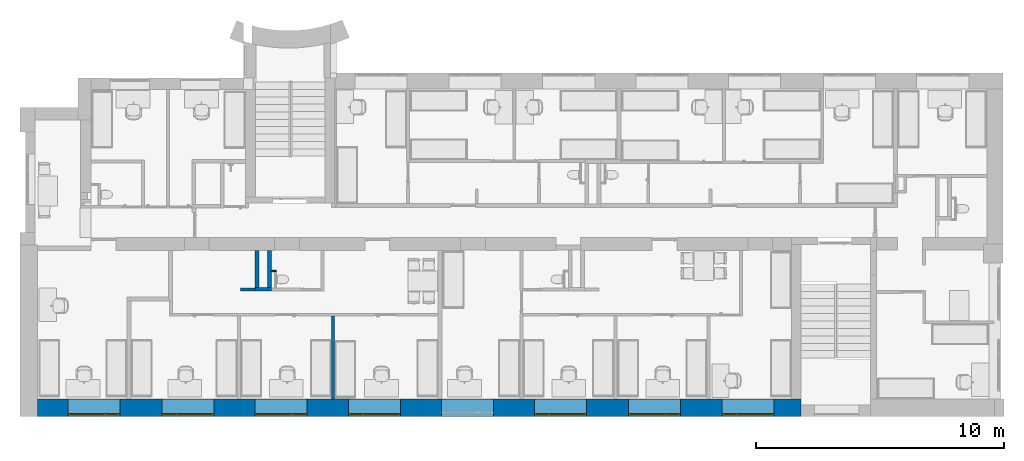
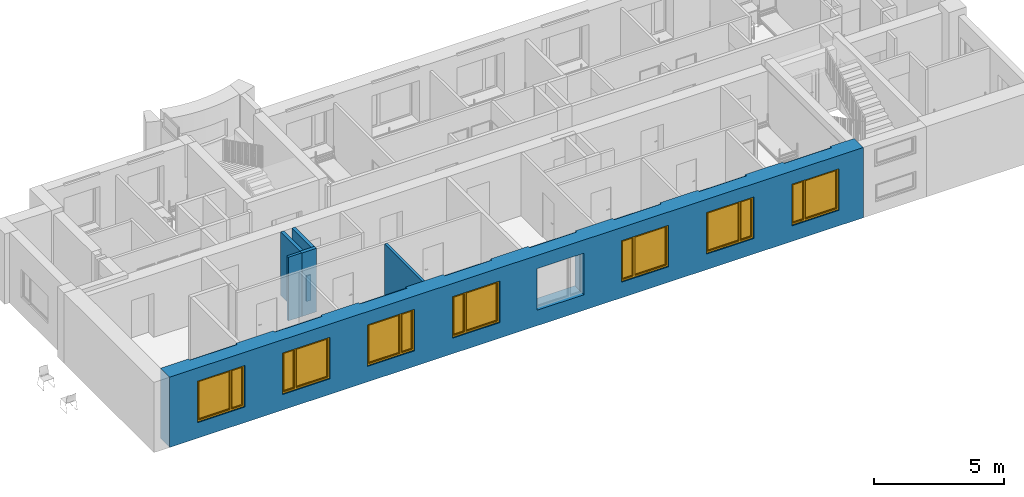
# One storey, part 3 of 48: 7 walls, 7 windows, 11 openings.
"""IFC2X3 building model written with IfcOpenShell, lengths in millimetres."""

import ifcopenshell
import ifcopenshell.guid

model = None  # the IFC model being written
_history = None  # IfcOwnerHistory: only IFC2X3 demands one
_inside = {}  # id of a spatial element -> (the spatial element, [elements in it])
_under = {}  # id of a project, library or spatial element -> (it, [spatial elements below it])
_declared = {}  # id of a project -> (the project, [libraries it declares])
_typed = {}  # id of a type object -> (the type object, [elements of that type])
_made_of = {}  # id of a material, layer set ... -> (it, [elements and type objects made of it])


def new_model(schema):
    """Start an empty IFC model of exactly this schema.

    Asked for "IFC4X3", IfcOpenShell would pick the latest addendum, in which some entities
    have other attributes; the version numbers below select the first issue.
    IFC2X3 requires an IfcOwnerHistory on every rooted entity: one is made here for all.
    """
    global model, _history
    if schema == "IFC4X3":
        model = ifcopenshell.file(schema_version=(4, 3, 0, 0))
    else:
        model = ifcopenshell.file(schema=schema)
    _inside.clear()
    _under.clear()
    _declared.clear()
    _typed.clear()
    _made_of.clear()
    _history = None
    if model.schema == "IFC2X3":
        org = make("IfcOrganization", Name="unknown")
        user = make(
            "IfcPersonAndOrganization",
            ThePerson=make("IfcPerson", FamilyName="unknown"),
            TheOrganization=org,
        )
        app = make(
            "IfcApplication",
            ApplicationDeveloper=org,
            Version="unknown",
            ApplicationFullName="unknown",
            ApplicationIdentifier="unknown",
        )
        _history = make(
            "IfcOwnerHistory",
            OwningUser=user,
            OwningApplication=app,
            ChangeAction="ADDED",
            CreationDate=0,
        )
    return model


def make(cls, **values):
    """One entity of the class cls with the attributes given. An attribute that is None is left unset."""
    return model.create_entity(
        cls, **{name: value for name, value in values.items() if value is not None}
    )


def entity(cls, *values):
    """Any entity or typed value of the class cls, its attributes in the order of the schema. None: left unset."""
    e = model.create_entity(cls)
    for i, value in enumerate(values):
        if value is not None:
            e[i] = value
    return e


def rooted(cls, **values):
    """An entity with a GlobalId (a new one), such as an element, a storey or a relation."""
    return make(cls, GlobalId=ifcopenshell.guid.new(), OwnerHistory=_history, **values)


def si_unit(unit_type, name, prefix=None):
    """IfcSIUnit, for example si_unit("LENGTHUNIT", "METRE", prefix="MILLI")."""
    return make("IfcSIUnit", UnitType=unit_type, Prefix=prefix, Name=name)


def converted_unit(unit_type, name, factor, base, dimensions=None, offset=None):
    """IfcConversionBasedUnit, such as the inch: factor (a typed value) times the base unit."""
    return make(
        "IfcConversionBasedUnit"
        if offset is None
        else "IfcConversionBasedUnitWithOffset",
        ConversionOffset=offset,
        Dimensions=None
        if dimensions is None
        else entity("IfcDimensionalExponents", *dimensions),
        UnitType=unit_type,
        Name=name,
        ConversionFactor=make(
            "IfcMeasureWithUnit", ValueComponent=factor, UnitComponent=base
        ),
    )


def derived_unit(unit_type, elements):
    """IfcDerivedUnit: a product of units, each with its exponent."""
    return make(
        "IfcDerivedUnit",
        Elements=[
            make("IfcDerivedUnitElement", Unit=unit, Exponent=power)
            for unit, power in elements
        ],
        UnitType=unit_type,
    )


def assignment(units):
    """IfcUnitAssignment: the units of a project."""
    return None if units is None else make("IfcUnitAssignment", Units=units)


def point(xyz):
    """IfcCartesianPoint."""
    return None if xyz is None else make("IfcCartesianPoint", Coordinates=xyz)


def direction(xyz):
    """IfcDirection."""
    return None if xyz is None else make("IfcDirection", DirectionRatios=xyz)


def frame(location, z_axis=None, x_axis=None):
    """IfcAxis2Placement3D, a coordinate frame: its origin and axes. An axis left out is left unset."""
    return make(
        "IfcAxis2Placement3D",
        Location=point(location),
        Axis=direction(z_axis),
        RefDirection=direction(x_axis),
    )


def frame_2d(location, x_axis=None):
    """IfcAxis2Placement2D, a coordinate frame in the plane: its origin and x axis."""
    return make(
        "IfcAxis2Placement2D", Location=point(location), RefDirection=direction(x_axis)
    )


def origin():
    """The frame at (0, 0, 0) with its axes left unset."""
    return frame((0.0, 0.0, 0.0))


def place(relative_to, where):
    """IfcLocalPlacement: puts the frame where relative to a parent placement (None: the world)."""
    return make(
        "IfcLocalPlacement", PlacementRelTo=relative_to, RelativePlacement=where
    )


def context(
    kind, dimensions, precision=None, world=None, true_north=None, identifier=None
):
    """IfcGeometricRepresentationContext, for example the 3D "Model" context."""
    return make(
        "IfcGeometricRepresentationContext",
        ContextIdentifier=identifier,
        ContextType=kind,
        CoordinateSpaceDimension=dimensions,
        Precision=precision,
        WorldCoordinateSystem=world,
        TrueNorth=true_north,
    )


def subcontext(parent, identifier, kind, view, scale=None):
    """IfcGeometricRepresentationSubContext, for example "Body" below "Model"."""
    return make(
        "IfcGeometricRepresentationSubContext",
        ContextIdentifier=identifier,
        ContextType=kind,
        ParentContext=parent,
        TargetScale=scale,
        TargetView=view,
    )


def project(units=None, contexts=None):
    """IfcProject with its units and contexts."""
    return rooted(
        "IfcProject",
        Name="project",
        RepresentationContexts=contexts,
        UnitsInContext=assignment(units),
    )


def spatial(cls, under=None, at=None, **own):
    """A site, building, storey or space (cls), placed at a placement, below another one or the project."""
    s = rooted(cls, ObjectPlacement=at, **own)
    if under is not None:
        _under.setdefault(under.id(), (under, []))[1].append(s)
    return s


def profile(cls, at=None, kind="AREA", **sizes):
    """A parametric profile (cls). Its sizes go by their IFC names, for example OverallWidth=200.0."""
    return make(cls, ProfileType=kind, Position=at, **sizes)


def rectangle(**sizes):
    """IfcRectangleProfileDef."""
    return profile("IfcRectangleProfileDef", **sizes)


def extrude(swept, where, along, depth):
    """IfcExtrudedAreaSolid: the profile swept, set in the frame where, extruded along a direction by depth."""
    return make(
        "IfcExtrudedAreaSolid",
        SweptArea=swept,
        Position=where,
        ExtrudedDirection=direction(along),
        Depth=depth,
    )


def faces_of(points, faces, orient=None, outer=None):
    """IfcFace entities. A face is a list of loops; a loop is a list of indices into points, from 0.

    orient and outer hold one flag for each loop. By default every Orientation is true, the
    first loop of a face is its IfcFaceOuterBound and the others are IfcFaceBound.
    """
    made = []
    for i, loops in enumerate(faces):
        bounds = []
        for j, loop in enumerate(loops):
            is_outer = j == 0 if outer is None else outer[i][j]
            bounds.append(
                make(
                    "IfcFaceOuterBound" if is_outer else "IfcFaceBound",
                    Bound=make("IfcPolyLoop", Polygon=[points[k] for k in loop]),
                    Orientation=True if orient is None else orient[i][j],
                )
            )
        made.append(make("IfcFace", Bounds=bounds))
    return made


def faceted_brep(points, faces, orient=None, outer=None, voids=None):
    """IfcFacetedBrep: a solid bounded by flat faces; with voids (closed shells), ...WithVoids."""
    shared = [point(p) for p in points]
    hull = make("IfcClosedShell", CfsFaces=faces_of(shared, faces, orient, outer))
    if voids is None:
        return make("IfcFacetedBrep", Outer=hull)
    return make(
        "IfcFacetedBrepWithVoids",
        Outer=hull,
        Voids=[
            make(cls, CfsFaces=faces_of(shared, fs, o, b)) for cls, fs, o, b in voids
        ],
    )


def shape(context_of_items, identifier, shape_type, items):
    """IfcShapeRepresentation: the items that make up one representation, for example the "Body"."""
    return make(
        "IfcShapeRepresentation",
        ContextOfItems=context_of_items,
        RepresentationIdentifier=identifier,
        RepresentationType=shape_type,
        Items=items,
    )


def source(mapping_origin, context_of_items, identifier, shape_type, items):
    """IfcRepresentationMap: a shape defined once, which mapped items show again and again."""
    return make(
        "IfcRepresentationMap",
        MappingOrigin=mapping_origin,
        MappedRepresentation=shape(context_of_items, identifier, shape_type, items),
    )


def transform(
    local_origin,
    x_axis=None,
    y_axis=None,
    z_axis=None,
    scale=None,
    scale2=None,
    scale3=None,
    uniform=True,
):
    """IfcCartesianTransformationOperator3D, or its non-uniform kind. x_axis, y_axis, z_axis: its Axis1, 2, 3."""
    if uniform:
        return make(
            "IfcCartesianTransformationOperator3D",
            Axis1=direction(x_axis),
            Axis2=direction(y_axis),
            LocalOrigin=point(local_origin),
            Scale=scale,
            Axis3=direction(z_axis),
        )
    return make(
        "IfcCartesianTransformationOperator3DnonUniform",
        Axis1=direction(x_axis),
        Axis2=direction(y_axis),
        LocalOrigin=point(local_origin),
        Scale=scale,
        Axis3=direction(z_axis),
        Scale2=scale2,
        Scale3=scale3,
    )


def mapped(mapping_source, mapping_target):
    """IfcMappedItem: shows the shape of a source again, moved by a transform."""
    return make(
        "IfcMappedItem", MappingSource=mapping_source, MappingTarget=mapping_target
    )


def material(Name=None, Category=None):
    """IfcMaterial."""
    return make("IfcMaterial", Name=Name, Category=Category)


def material_list(materials):
    """IfcMaterialList."""
    return make("IfcMaterialList", Materials=materials)


def layer(
    of_material, thickness, ventilated=None, Name=None, Category=None, Priority=None
):
    """IfcMaterialLayer: one layer of a wall or slab, of a material (None: an air gap)."""
    return make(
        "IfcMaterialLayer",
        Material=of_material,
        LayerThickness=thickness,
        IsVentilated=ventilated,
        Name=Name,
        Category=Category,
        Priority=Priority,
    )


def layer_set(layers, Name=None):
    """IfcMaterialLayerSet."""
    return make("IfcMaterialLayerSet", MaterialLayers=layers, LayerSetName=Name)


def layer_usage(for_layer_set, set_direction, sense, offset, extent=None):
    """IfcMaterialLayerSetUsage: how a layer set lies in its element."""
    return make(
        "IfcMaterialLayerSetUsage",
        ForLayerSet=for_layer_set,
        LayerSetDirection=set_direction,
        DirectionSense=sense,
        OffsetFromReferenceLine=offset,
        ReferenceExtent=extent,
    )


def made_of(thing, what):
    """Note that an element or type object is made of a material, layer set ...; save() writes the relation."""
    if what is not None:
        _made_of.setdefault(what.id(), (what, []))[1].append(thing)
    return thing


def type_object(cls, material=None, **own):
    """A type object (cls), such as IfcWallType, which elements share."""
    return made_of(rooted(cls, **own), material)


def type_shapes(of_type, sources):
    """Give a type object the sources (RepresentationMaps) that its elements show as mapped items."""
    of_type.RepresentationMaps = sources


def element(
    cls,
    number,
    at=None,
    inside=None,
    cuts=None,
    type_object=None,
    material=None,
    context=None,
    identifier="Body",
    shape_type=None,
    held_by="IfcProductDefinitionShape",
    body=None,
    shapes=None,
    **own,
):
    """One element of the class cls, such as IfcWall. Its Tag is "e" and its number.

    at: its placement. inside: the storey or other place that contains it. cuts: it is an
    opening in that element (IfcRelVoidsElement). A single representation is given by context,
    identifier, shape_type and body (its items); several are given by shapes. held_by: the class
    of the entity that holds the representations. save() writes the other relations.
    """
    e = rooted(cls, Tag="e%d" % number, ObjectPlacement=at, **own)
    if body is not None:
        shapes = [shape(context, identifier, shape_type, body)]
    if shapes is not None:
        e.Representation = make(held_by, Representations=shapes)
    if inside is not None:
        _inside.setdefault(inside.id(), (inside, []))[1].append(e)
    if cuts is not None:
        rooted(
            "IfcRelVoidsElement", RelatingBuildingElement=cuts, RelatedOpeningElement=e
        )
    if type_object is not None:
        _typed.setdefault(type_object.id(), (type_object, []))[1].append(e)
    return made_of(e, material)


def fill(opening, filler):
    """IfcRelFillsElement: the door or window that sits in an opening."""
    return rooted(
        "IfcRelFillsElement",
        RelatingOpeningElement=opening,
        RelatedBuildingElement=filler,
    )


def aggregate(whole, parts):
    """IfcRelAggregates: a whole, such as a stair, and the parts it consists of."""
    return rooted("IfcRelAggregates", RelatingObject=whole, RelatedObjects=parts)


def save(model, path):
    """Write the relations noted so far, then the file.

    IfcRelAggregates (storeys below a building ...), IfcRelContainedInSpatialStructure (elements
    in a storey), IfcRelDefinesByType, IfcRelAssociatesMaterial and IfcRelDeclares: one each for
    every whole, place, type object, material and project.
    """
    for whole, parts in _under.values():
        aggregate(whole, parts)
    for where, things in _inside.values():
        rooted(
            "IfcRelContainedInSpatialStructure",
            RelatedElements=things,
            RelatingStructure=where,
        )
    for kind, things in _typed.values():
        rooted("IfcRelDefinesByType", RelatedObjects=things, RelatingType=kind)
    for what, things in _made_of.values():
        rooted("IfcRelAssociatesMaterial", RelatedObjects=things, RelatingMaterial=what)
    for by, libraries in _declared.values():
        rooted("IfcRelDeclares", RelatingContext=by, RelatedDefinitions=libraries)
    model.write(path)


model = new_model("IFC2X3")

# Units and contexts
model_context = context("Model", 3, precision=0.01, world=origin(), true_north=direction((6.12303176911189e-17, 1.0)))
body_context = subcontext(model_context, "Body", "Model", "MODEL_VIEW")
ifc_project = project(units=[si_unit("LENGTHUNIT", "METRE", prefix="MILLI"), si_unit("AREAUNIT", "SQUARE_METRE"), si_unit("VOLUMEUNIT", "CUBIC_METRE"), converted_unit("PLANEANGLEUNIT", "DEGREE", entity("IfcRatioMeasure", 0.0174532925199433), si_unit("PLANEANGLEUNIT", "RADIAN"), dimensions=[0, 0, 0, 0, 0, 0, 0]), si_unit("MASSUNIT", "GRAM", prefix="KILO"), derived_unit("MASSDENSITYUNIT", [(si_unit("MASSUNIT", "GRAM", prefix="KILO"), 1), (si_unit("LENGTHUNIT", "METRE"), -3)]), si_unit("TIMEUNIT", "SECOND"), si_unit("FREQUENCYUNIT", "HERTZ"), si_unit("THERMODYNAMICTEMPERATUREUNIT", "DEGREE_CELSIUS"), derived_unit("THERMALTRANSMITTANCEUNIT", [(si_unit("MASSUNIT", "GRAM", prefix="KILO"), 1), (si_unit("THERMODYNAMICTEMPERATUREUNIT", "KELVIN"), -1), (si_unit("TIMEUNIT", "SECOND"), -3)]), derived_unit("VOLUMETRICFLOWRATEUNIT", [(si_unit("LENGTHUNIT", "METRE"), 3), (si_unit("TIMEUNIT", "SECOND"), -1)]), si_unit("ELECTRICCURRENTUNIT", "AMPERE"), si_unit("ELECTRICVOLTAGEUNIT", "VOLT"), si_unit("POWERUNIT", "WATT"), si_unit("FORCEUNIT", "NEWTON", prefix="KILO"), si_unit("ILLUMINANCEUNIT", "LUX"), si_unit("LUMINOUSFLUXUNIT", "LUMEN"), si_unit("LUMINOUSINTENSITYUNIT", "CANDELA"), derived_unit("USERDEFINED", [(si_unit("MASSUNIT", "GRAM", prefix="KILO"), -1), (si_unit("LENGTHUNIT", "METRE"), -2), (si_unit("TIMEUNIT", "SECOND"), 3), (si_unit("LUMINOUSFLUXUNIT", "LUMEN"), 1)]), derived_unit("LINEARVELOCITYUNIT", [(si_unit("LENGTHUNIT", "METRE"), 1), (si_unit("TIMEUNIT", "SECOND"), -1)]), si_unit("PRESSUREUNIT", "PASCAL"), derived_unit("USERDEFINED", [(si_unit("LENGTHUNIT", "METRE"), -2), (si_unit("MASSUNIT", "GRAM", prefix="KILO"), 1), (si_unit("TIMEUNIT", "SECOND"), -2)]), derived_unit("LINEARFORCEUNIT", [(si_unit("MASSUNIT", "GRAM", prefix="KILO"), 1), (si_unit("LENGTHUNIT", "METRE"), 1), (si_unit("TIMEUNIT", "SECOND"), -2), (si_unit("LENGTHUNIT", "METRE"), -1)]), derived_unit("PLANARFORCEUNIT", [(si_unit("MASSUNIT", "GRAM", prefix="KILO"), 1), (si_unit("LENGTHUNIT", "METRE"), 1), (si_unit("TIMEUNIT", "SECOND"), -2), (si_unit("LENGTHUNIT", "METRE"), -2)])], contexts=[model_context])

# Site, building, storey
site_placement = place(None, origin())
site = spatial("IfcSite", under=ifc_project, at=site_placement, Name="Default", CompositionType="ELEMENT")
building_placement = place(site_placement, origin())
building = spatial("IfcBuilding", under=site, at=building_placement, Name="SMA ARH", CompositionType="ELEMENT")
storey_placement = place(building_placement, frame((0.0, 0.0, 3300.0)))
storey = spatial("IfcBuildingStorey", under=building, at=storey_placement, Name="2 Korrus", CompositionType="ELEMENT", Elevation=3299.99999999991)

# Wall, openings, windows
ifc_material_1 = material(Name="_ol.olev sein")
ifc_layer_1 = layer(ifc_material_1, 700.0)
ifc_layer_set_1 = layer_set([ifc_layer_1], Name="Basic Wall:Generic - 700mm")
ifc_layer_usage_1 = layer_usage(ifc_layer_set_1, "AXIS2", "POSITIVE", -350.0)
wall_type_1 = type_object("IfcWallType", Name="Basic Wall:Generic - 700mm", PredefinedType="STANDARD", material=ifc_layer_set_1)
wall_1_placement = place(storey_placement, frame((0.0, -350.0, 0.0)))
wall_1 = element("IfcWallStandardCase", 1, at=wall_1_placement, inside=storey, type_object=wall_type_1, material=ifc_layer_usage_1, Name="Basic Wall:Generic - 700mm", ObjectType="Basic Wall:Generic - 700mm", context=body_context, shape_type="SweptSolid", body=[
    extrude(rectangle(XDim=30810.698001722, YDim=700.0, at=frame_2d((15405.349000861, -5.6843418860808e-14), x_axis=(-1.0, 0.0))), origin(), (0.0, 0.0, 1.0), 3299.99999999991),
])
opening_1_placement = place(wall_1_placement, origin())
element("IfcOpeningElement", 2, at=opening_1_placement, cuts=wall_1, Name="Basic Wall:Generic - 700mm", ObjectType="Recess", context=body_context, shape_type="SweptSolid", body=[
    extrude(rectangle(XDim=761.05, YDim=2098.41008000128, at=frame_2d((2.1600499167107e-12, 0.0), x_axis=(0.0, 1.0))), frame((28680.7949599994, 250.0, 319.475000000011), z_axis=(0.0, 1.0, 0.0), x_axis=(1.0, 0.0, 0.0)), (0.0, 0.0, 1.0), 100.0),
    extrude(rectangle(XDim=761.05, YDim=2098.41008000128, at=frame_2d((-2.1600499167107e-12, 0.0), x_axis=(0.0, 1.0))), frame((24895.7949599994, 250.0, 319.475000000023), z_axis=(0.0, 1.0, 0.0), x_axis=(1.0, 0.0, 0.0)), (0.0, 0.0, 1.0), 100.0),
    extrude(rectangle(XDim=761.05, YDim=2098.41008000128, at=frame_2d((-2.1600499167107e-12, 0.0), x_axis=(0.0, 1.0))), frame((21110.7949599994, 250.0, 319.475000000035), z_axis=(0.0, 1.0, 0.0), x_axis=(1.0, 0.0, 0.0)), (0.0, 0.0, 1.0), 100.0),
    extrude(rectangle(XDim=761.05, YDim=2098.41008000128, at=frame_2d((-2.1600499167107e-12, 0.0), x_axis=(0.0, 1.0))), frame((17355.7949599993, 250.0, 319.475000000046), z_axis=(0.0, 1.0, 0.0), x_axis=(1.0, 0.0, 0.0)), (0.0, 0.0, 1.0), 100.0),
    extrude(rectangle(XDim=761.05, YDim=2098.41008000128, at=frame_2d((2.1600499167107e-12, 0.0), x_axis=(0.0, 1.0))), frame((13610.7949599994, 250.0, 319.475000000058), z_axis=(0.0, 1.0, 0.0), x_axis=(1.0, 0.0, 0.0)), (0.0, 0.0, 1.0), 100.0),
    extrude(rectangle(XDim=761.05, YDim=2098.41008000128, at=frame_2d((0.0, 0.0), x_axis=(0.0, 1.0))), frame((9830.79495999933, 250.0, 319.47500000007), z_axis=(0.0, 1.0, 0.0), x_axis=(1.0, 0.0, 0.0)), (0.0, 0.0, 1.0), 100.0),
    extrude(rectangle(XDim=761.05, YDim=2098.41008000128, at=frame_2d((0.0, 0.0), x_axis=(0.0, 1.0))), frame((6070.79495999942, 250.0, 319.475000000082), z_axis=(0.0, 1.0, 0.0), x_axis=(1.0, 0.0, 0.0)), (0.0, 0.0, 1.0), 100.0),
    extrude(rectangle(XDim=761.05, YDim=2098.41008000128, at=frame_2d((1.13686837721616e-13, 0.0), x_axis=(0.0, 1.0))), frame((2290.79495999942, 250.0, 319.475000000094), z_axis=(0.0, 1.0, 0.0), x_axis=(1.0, 0.0, 0.0)), (0.0, 0.0, 1.0), 100.0),
    extrude(rectangle(XDim=761.05, YDim=2098.41008000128, at=frame_2d((-2.1600499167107e-12, 0.0), x_axis=(0.0, 1.0))), frame((28680.7949599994, 250.0, 3619.47500000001), z_axis=(0.0, 1.0, 0.0), x_axis=(1.0, 0.0, 0.0)), (0.0, 0.0, 1.0), 100.0),
    extrude(rectangle(XDim=761.05, YDim=2098.41008000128, at=frame_2d((2.1600499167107e-12, 0.0), x_axis=(0.0, 1.0))), frame((24915.7949599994, 250.0, 3619.47500000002), z_axis=(0.0, 1.0, 0.0), x_axis=(1.0, 0.0, 0.0)), (0.0, 0.0, 1.0), 100.0),
    extrude(rectangle(XDim=761.05, YDim=2098.41008000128, at=frame_2d((-2.1600499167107e-12, 0.0), x_axis=(0.0, 1.0))), frame((21130.7949599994, 250.0, 3619.47500000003), z_axis=(0.0, 1.0, 0.0), x_axis=(1.0, 0.0, 0.0)), (0.0, 0.0, 1.0), 100.0),
    extrude(rectangle(XDim=761.05, YDim=2098.41008000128, at=frame_2d((0.0, 0.0), x_axis=(0.0, 1.0))), frame((17370.7949599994, 250.0, 3619.47500000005), z_axis=(0.0, 1.0, 0.0), x_axis=(1.0, 0.0, 0.0)), (0.0, 0.0, 1.0), 100.0),
    extrude(rectangle(XDim=761.05, YDim=2098.41008000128, at=frame_2d((-2.1600499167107e-12, 0.0), x_axis=(0.0, 1.0))), frame((13610.7949599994, 250.0, 3619.47500000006), z_axis=(0.0, 1.0, 0.0), x_axis=(1.0, 0.0, 0.0)), (0.0, 0.0, 1.0), 100.0),
    extrude(rectangle(XDim=761.05, YDim=2098.41008000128, at=frame_2d((0.0, 0.0), x_axis=(0.0, 1.0))), frame((9830.79495999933, 250.0, 3619.47500000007), z_axis=(0.0, 1.0, 0.0), x_axis=(1.0, 0.0, 0.0)), (0.0, 0.0, 1.0), 100.0),
    extrude(rectangle(XDim=761.05, YDim=2098.41008000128, at=frame_2d((0.0, 0.0), x_axis=(0.0, 1.0))), frame((6070.79495999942, 250.0, 3619.47500000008), z_axis=(0.0, 1.0, 0.0), x_axis=(1.0, 0.0, 0.0)), (0.0, 0.0, 1.0), 100.0),
    extrude(rectangle(XDim=761.05, YDim=2098.41008000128, at=frame_2d((1.13686837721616e-13, 0.0), x_axis=(0.0, 1.0))), frame((2290.79495999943, 250.0, 3619.47500000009), z_axis=(0.0, 1.0, 0.0), x_axis=(1.0, 0.0, 0.0)), (0.0, 0.0, 1.0), 100.0),
])
opening_2_placement = place(wall_1_placement, origin())
element("IfcOpeningElement", 3, at=opening_2_placement, cuts=wall_1, Name="Basic Wall:Generic - 700mm", ObjectType="Opening", context=body_context, shape_type="SweptSolid", body=[
    extrude(rectangle(XDim=820.0, YDim=1800.0, at=frame_2d((0.0, 0.0), x_axis=(0.0, 1.0))), frame((32250.0, -1404.0, 960.0), z_axis=(0.0, 1.0, 0.0), x_axis=(-1.0, 0.0, 0.0)), (0.0, 0.0, 1.0), 3048.0),
])
opening_3_placement = place(wall_1_placement, origin())
element("IfcOpeningElement", 4, at=opening_3_placement, cuts=wall_1, Name="Basic Wall:Generic - 700mm", ObjectType="Opening", context=body_context, shape_type="SweptSolid", body=[
    extrude(rectangle(XDim=820.0, YDim=1800.0, at=frame_2d((4.32009983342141e-12, 0.0), x_axis=(0.0, 1.0))), frame((32210.0, -1404.0, 2620.0), z_axis=(0.0, 1.0, 0.0), x_axis=(-1.0, 0.0, 0.0)), (0.0, 0.0, 1.0), 3048.0),
])
opening_4_placement = place(wall_1_placement, frame((3340.0, 350.0, 730.0)))
opening_4 = element("IfcOpeningElement", 5, at=opening_4_placement, cuts=wall_1, Name="SMA_W2, 2-jaotus:A-00 - 2100x1900:1", ObjectType="Opening", context=body_context, shape_type="SweptSolid", body=[
    extrude(rectangle(XDim=1950.0, YDim=2100.0, at=frame_2d((975.0, 1050.0), x_axis=(1.0, 0.0))), frame((0.0, 0.0, 0.0), z_axis=(0.0, -1.0, 0.0), x_axis=(0.0, 0.0, 1.0)), (0.0, 0.0, 1.0), 700.0),
])
opening_5_placement = place(wall_1_placement, frame((7120.0, 350.0, 730.0)))
opening_5 = element("IfcOpeningElement", 6, at=opening_5_placement, cuts=wall_1, Name="SMA_W2, 2-jaotus:A-00 - 2100x1900:1", ObjectType="Opening", context=body_context, shape_type="SweptSolid", body=[
    extrude(rectangle(XDim=1950.0, YDim=2100.0, at=frame_2d((975.0, 1050.0), x_axis=(1.0, 0.0))), frame((0.0, 0.0, 0.0), z_axis=(0.0, -1.0, 0.0), x_axis=(0.0, 0.0, 1.0)), (0.0, 0.0, 1.0), 700.0),
])
opening_6_placement = place(wall_1_placement, frame((10880.0, 350.0, 730.0)))
opening_6 = element("IfcOpeningElement", 7, at=opening_6_placement, cuts=wall_1, Name="SMA_W2, 2-jaotus:A-00 - 2100x1900:1", ObjectType="Opening", context=body_context, shape_type="SweptSolid", body=[
    extrude(rectangle(XDim=1950.0, YDim=2100.0, at=frame_2d((975.0, 1050.0), x_axis=(1.0, 0.0))), frame((0.0, 0.0, 0.0), z_axis=(0.0, -1.0, 0.0), x_axis=(0.0, 0.0, 1.0)), (0.0, 0.0, 1.0), 700.0),
])
opening_7_placement = place(wall_1_placement, frame((14660.0, 350.0, 730.0)))
opening_7 = element("IfcOpeningElement", 8, at=opening_7_placement, cuts=wall_1, Name="SMA_W2, 2-jaotus:A-00 - 2100x1900:1", ObjectType="Opening", context=body_context, shape_type="SweptSolid", body=[
    extrude(rectangle(XDim=1950.0, YDim=2100.0, at=frame_2d((975.0, 1050.0), x_axis=(1.0, 0.0))), frame((0.0, 0.0, 0.0), z_axis=(0.0, -1.0, 0.0), x_axis=(0.0, 0.0, 1.0)), (0.0, 0.0, 1.0), 700.0),
])
opening_8_placement = place(wall_1_placement, frame((18405.0, 350.0, 730.0)))
element("IfcOpeningElement", 9, at=opening_8_placement, cuts=wall_1, Name="SMA_W2, 2-jaotus:A-00 - 2100x1900:1", ObjectType="Opening", context=body_context, shape_type="SweptSolid", body=[
    extrude(rectangle(XDim=1950.0, YDim=2100.0, at=frame_2d((975.0, 1050.0), x_axis=(1.0, 0.0))), frame((0.0, 0.0, 0.0), z_axis=(0.0, -1.0, 0.0), x_axis=(0.0, 0.0, 1.0)), (0.0, 0.0, 1.0), 700.0),
])
opening_9_placement = place(wall_1_placement, frame((22160.0, 350.0, 730.0)))
opening_9 = element("IfcOpeningElement", 10, at=opening_9_placement, cuts=wall_1, Name="SMA_W2, 2-jaotus:A-00 - 2100x1900:1", ObjectType="Opening", context=body_context, shape_type="SweptSolid", body=[
    extrude(rectangle(XDim=1950.0, YDim=2100.0, at=frame_2d((975.0, 1050.0), x_axis=(1.0, 0.0))), frame((0.0, 0.0, 0.0), z_axis=(0.0, -1.0, 0.0), x_axis=(0.0, 0.0, 1.0)), (0.0, 0.0, 1.0), 700.0),
])
opening_10_placement = place(wall_1_placement, frame((25945.0, 350.0, 730.0)))
opening_10 = element("IfcOpeningElement", 11, at=opening_10_placement, cuts=wall_1, Name="SMA_W2, 2-jaotus:A-00 - 2100x1900:1", ObjectType="Opening", context=body_context, shape_type="SweptSolid", body=[
    extrude(rectangle(XDim=1950.0, YDim=2100.0, at=frame_2d((975.0, 1050.0), x_axis=(1.0, 0.0))), frame((0.0, 0.0, 0.0), z_axis=(0.0, -1.0, 0.0), x_axis=(0.0, 0.0, 1.0)), (0.0, 0.0, 1.0), 700.0),
])
opening_11_placement = place(wall_1_placement, frame((29730.0, 350.0, 730.0)))
opening_11 = element("IfcOpeningElement", 12, at=opening_11_placement, cuts=wall_1, Name="SMA_W2, 2-jaotus:A-00 - 2100x1900:1", ObjectType="Opening", context=body_context, shape_type="SweptSolid", body=[
    extrude(rectangle(XDim=1950.0, YDim=2100.0, at=frame_2d((975.0, 1050.0), x_axis=(1.0, 0.0))), frame((0.0, 0.0, 0.0), z_axis=(0.0, -1.0, 0.0), x_axis=(0.0, 0.0, 1.0)), (0.0, 0.0, 1.0), 700.0),
])
ifc_material_2 = material(Name="Glass")
ifc_material_3 = material(Name="Hall")
ifc_material_list_1 = material_list([ifc_material_2, ifc_material_3])
ifc_material_4 = material(Name="<Unnamed>")
ifc_material_list_2 = material_list([ifc_material_4, ifc_material_3, ifc_material_3, ifc_material_2, ifc_material_4])
window_style_1 = type_object("IfcWindowStyle", Name="SMA_W2, 2-jaotus:A-00 - 2100x1900", ConstructionType="NOTDEFINED", OperationType="NOTDEFINED", ParameterTakesPrecedence=False, Sizeable=False, material=ifc_material_list_2)
shared_shape_1 = source(origin(), body_context, "Body", "Brep", [
    faceted_brep([(1995.0, 590.0, 1845.0), (660.0, 590.0, 1845.0), (660.0, 590.0, 105.0), (1995.0, 590.0, 105.0), (1995.0, 610.0, 105.0), (1995.0, 610.0, 1845.0), (660.0, 610.0, 105.0), (660.0, 610.0, 1845.0)], [[[0, 1, 2, 3]], [[3, 4, 5, 0]], [[2, 6, 4, 3]], [[1, 7, 6, 2]], [[5, 4, 6, 7]], [[0, 5, 7, 1]]]),
    faceted_brep([(520.0, 590.0, 105.0), (520.0, 590.0, 1845.0), (105.0, 590.0, 1845.0), (105.0, 590.0, 105.0), (105.0, 610.0, 105.0), (520.0, 610.0, 105.0), (105.0, 610.0, 1845.0), (520.0, 610.0, 1845.0)], [[[0, 1, 2, 3]], [[3, 4, 5, 0]], [[2, 6, 4, 3]], [[0, 5, 7, 1]], [[5, 4, 6, 7]], [[1, 7, 6, 2]]]),
    faceted_brep([(2065.0, 575.0, 35.0), (2065.0, 575.0, 1915.0), (590.0, 575.0, 1915.0), (590.0, 575.0, 35.0), (660.0, 575.0, 1845.0), (1995.0, 575.0, 1845.0), (1995.0, 575.0, 105.0), (660.0, 575.0, 105.0), (590.0, 625.0, 35.0), (2065.0, 625.0, 35.0), (590.0, 625.0, 1915.0), (2065.0, 625.0, 1915.0), (660.0, 625.0, 105.0), (660.0, 625.0, 1845.0), (1995.0, 625.0, 105.0), (1995.0, 625.0, 1845.0)], [[[0, 1, 2, 3], [4, 5, 6, 7]], [[3, 8, 9, 0]], [[2, 10, 8, 3]], [[0, 9, 11, 1]], [[7, 12, 13, 4]], [[6, 14, 12, 7]], [[5, 15, 14, 6]], [[9, 8, 10, 11], [13, 12, 14, 15]], [[1, 11, 10, 2]], [[4, 13, 15, 5]]]),
    faceted_brep([(590.0, 575.0, 35.0), (590.0, 575.0, 1915.0), (35.0, 575.0, 1915.0), (35.0, 575.0, 35.0), (105.0, 575.0, 1845.0), (520.0, 575.0, 1845.0), (520.0, 575.0, 105.0), (105.0, 575.0, 105.0), (35.0, 625.0, 35.0), (590.0, 625.0, 35.0), (35.0, 625.0, 1915.0), (590.0, 625.0, 1915.0), (105.0, 625.0, 105.0), (105.0, 625.0, 1845.0), (520.0, 625.0, 105.0), (520.0, 625.0, 1845.0)], [[[0, 1, 2, 3], [4, 5, 6, 7]], [[3, 8, 9, 0]], [[2, 10, 8, 3]], [[0, 9, 11, 1]], [[7, 12, 13, 4]], [[6, 14, 12, 7]], [[5, 15, 14, 6]], [[9, 8, 10, 11], [13, 12, 14, 15]], [[1, 11, 10, 2]], [[4, 13, 15, 5]]]),
    faceted_brep([(35.0, 600.0, 35.0), (35.0, 600.0, 1915.0), (590.0, 600.0, 1915.0), (590.0, 600.0, 35.0), (2030.0, 600.0, 1880.0), (2030.0, 600.0, 70.0), (625.0, 600.0, 70.0), (625.0, 600.0, 1880.0), (2100.0, 600.0, 0.0), (2100.0, 600.0, 1950.0), (0.0, 600.0, 1950.0), (0.0, 600.0, 0.0), (0.0, 650.0, 0.0), (2100.0, 650.0, 0.0), (0.0, 650.0, 1950.0), (2100.0, 650.0, 1950.0), (625.0, 650.0, 70.0), (625.0, 650.0, 1880.0), (2030.0, 650.0, 70.0), (2030.0, 650.0, 1880.0), (35.0, 625.0, 35.0), (590.0, 625.0, 35.0), (590.0, 625.0, 1915.0), (35.0, 625.0, 1915.0), (555.0, 650.0, 1880.0), (70.0, 650.0, 1880.0), (70.0, 650.0, 70.0), (555.0, 650.0, 70.0), (555.0, 625.0, 70.0), (555.0, 625.0, 1880.0), (70.0, 625.0, 70.0), (70.0, 625.0, 1880.0)], [[[0, 1, 2, 3], [4, 5, 6, 7], [8, 9, 10, 11]], [[11, 12, 13, 8]], [[10, 14, 12, 11]], [[8, 13, 15, 9]], [[6, 16, 17, 7]], [[5, 18, 16, 6]], [[4, 19, 18, 5]], [[20, 0, 3, 21]], [[21, 3, 2, 22]], [[23, 1, 0, 20]], [[13, 12, 14, 15], [19, 17, 16, 18], [24, 25, 26, 27]], [[27, 28, 29, 24]], [[26, 30, 28, 27]], [[25, 31, 30, 26]], [[21, 22, 23, 20], [29, 28, 30, 31]], [[9, 15, 14, 10]], [[7, 17, 19, 4]], [[22, 2, 1, 23]], [[24, 29, 31, 25]]], outer=[[False, False, True], [True], [True], [True], [True], [True], [True], [True], [True], [True], [True, False, False], [True], [True], [True], [True, False], [True], [True], [True], [True]]),
])
type_shapes(window_style_1, [shared_shape_1])
window_1_placement = place(opening_4_placement, frame((0.0, 0.0, 0.0), z_axis=(0.0, 0.0, 1.0), x_axis=(-1.0, 0.0, 0.0)))
window_1 = element("IfcWindow", 13, at=window_1_placement, inside=storey, type_object=window_style_1, material=ifc_material_list_1, Name="SMA_W2, 2-jaotus:A-00 - 2100x1900", ObjectType="SMA_W2, 2-jaotus:A-00 - 2100x1900", OverallHeight=1950.0, OverallWidth=2100.0, context=body_context, shape_type="MappedRepresentation", body=[
    mapped(shared_shape_1, transform((0.0, 0.0, 0.0), scale=1.0)),
])
fill(opening_4, window_1)
ifc_material_list_3 = material_list([ifc_material_2, ifc_material_3])
window_2_placement = place(opening_6_placement, frame((0.0, 0.0, 0.0), z_axis=(0.0, 0.0, 1.0), x_axis=(-1.0, 0.0, 0.0)))
window_2 = element("IfcWindow", 14, at=window_2_placement, inside=storey, type_object=window_style_1, material=ifc_material_list_3, Name="SMA_W2, 2-jaotus:A-00 - 2100x1900", ObjectType="SMA_W2, 2-jaotus:A-00 - 2100x1900", OverallHeight=1950.0, OverallWidth=2100.0, context=body_context, shape_type="MappedRepresentation", body=[
    mapped(shared_shape_1, transform((0.0, 0.0, 0.0), scale=1.0)),
])
fill(opening_6, window_2)
ifc_material_list_4 = material_list([ifc_material_2, ifc_material_3])
window_3_placement = place(opening_10_placement, frame((0.0, 0.0, 0.0), z_axis=(0.0, 0.0, 1.0), x_axis=(-1.0, 0.0, 0.0)))
window_3 = element("IfcWindow", 15, at=window_3_placement, inside=storey, type_object=window_style_1, material=ifc_material_list_4, Name="SMA_W2, 2-jaotus:A-00 - 2100x1900", ObjectType="SMA_W2, 2-jaotus:A-00 - 2100x1900", OverallHeight=1950.0, OverallWidth=2100.0, context=body_context, shape_type="MappedRepresentation", body=[
    mapped(shared_shape_1, transform((0.0, 0.0, 0.0), scale=1.0)),
])
fill(opening_10, window_3)
ifc_material_list_5 = material_list([ifc_material_2, ifc_material_3])
ifc_material_list_6 = material_list([ifc_material_3, ifc_material_2, ifc_material_3, ifc_material_4, ifc_material_4])
window_style_2 = type_object("IfcWindowStyle", Name="SMA_W2, 2-jaotus:A-00 - 2100x1900", ConstructionType="NOTDEFINED", OperationType="NOTDEFINED", ParameterTakesPrecedence=False, Sizeable=False, material=ifc_material_list_6)
shared_shape_2 = source(origin(), body_context, "Body", "Brep", [
    faceted_brep([(105.0, 590.0, 1845.0), (105.0, 590.0, 105.0), (1440.0, 590.0, 105.0), (1440.0, 590.0, 1845.0), (105.0, 610.0, 1845.0), (105.0, 610.0, 105.0), (1440.0, 610.0, 105.0), (1440.0, 610.0, 1845.0)], [[[0, 1, 2, 3]], [[1, 0, 4, 5]], [[2, 1, 5, 6]], [[3, 2, 6, 7]], [[4, 7, 6, 5]], [[0, 3, 7, 4]]]),
    faceted_brep([(1580.0, 590.0, 105.0), (1995.0, 590.0, 105.0), (1995.0, 590.0, 1845.0), (1580.0, 590.0, 1845.0), (1580.0, 610.0, 105.0), (1995.0, 610.0, 105.0), (1995.0, 610.0, 1845.0), (1580.0, 610.0, 1845.0)], [[[0, 1, 2, 3]], [[1, 0, 4, 5]], [[2, 1, 5, 6]], [[0, 3, 7, 4]], [[4, 7, 6, 5]], [[3, 2, 6, 7]]]),
    faceted_brep([(35.0, 575.0, 35.0), (1510.0, 575.0, 35.0), (1510.0, 575.0, 1915.0), (35.0, 575.0, 1915.0), (1440.0, 575.0, 1845.0), (1440.0, 575.0, 105.0), (105.0, 575.0, 105.0), (105.0, 575.0, 1845.0), (35.0, 625.0, 35.0), (1510.0, 625.0, 35.0), (1510.0, 625.0, 1915.0), (35.0, 625.0, 1915.0), (1440.0, 625.0, 1845.0), (1440.0, 625.0, 105.0), (105.0, 625.0, 105.0), (105.0, 625.0, 1845.0)], [[[0, 1, 2, 3], [4, 5, 6, 7]], [[1, 0, 8, 9]], [[2, 1, 9, 10]], [[0, 3, 11, 8]], [[5, 4, 12, 13]], [[6, 5, 13, 14]], [[7, 6, 14, 15]], [[8, 11, 10, 9], [12, 15, 14, 13]], [[3, 2, 10, 11]], [[4, 7, 15, 12]]]),
    faceted_brep([(1510.0, 575.0, 35.0), (2065.0, 575.0, 35.0), (2065.0, 575.0, 1915.0), (1510.0, 575.0, 1915.0), (1995.0, 575.0, 1845.0), (1995.0, 575.0, 105.0), (1580.0, 575.0, 105.0), (1580.0, 575.0, 1845.0), (1510.0, 625.0, 35.0), (2065.0, 625.0, 35.0), (2065.0, 625.0, 1915.0), (1510.0, 625.0, 1915.0), (1995.0, 625.0, 1845.0), (1995.0, 625.0, 105.0), (1580.0, 625.0, 105.0), (1580.0, 625.0, 1845.0)], [[[0, 1, 2, 3], [4, 5, 6, 7]], [[1, 0, 8, 9]], [[2, 1, 9, 10]], [[0, 3, 11, 8]], [[5, 4, 12, 13]], [[6, 5, 13, 14]], [[7, 6, 14, 15]], [[8, 11, 10, 9], [12, 15, 14, 13]], [[3, 2, 10, 11]], [[4, 7, 15, 12]]]),
    faceted_brep([(0.0, 600.0, 0.0), (2100.0, 600.0, 0.0), (2100.0, 600.0, 1950.0), (0.0, 600.0, 1950.0), (2065.0, 600.0, 35.0), (1510.0, 600.0, 35.0), (1510.0, 600.0, 1915.0), (2065.0, 600.0, 1915.0), (70.0, 600.0, 1880.0), (1475.0, 600.0, 1880.0), (1475.0, 600.0, 70.0), (70.0, 600.0, 70.0), (0.0, 650.0, 0.0), (2100.0, 650.0, 0.0), (2100.0, 650.0, 1950.0), (0.0, 650.0, 1950.0), (1475.0, 650.0, 1880.0), (1475.0, 650.0, 70.0), (70.0, 650.0, 70.0), (70.0, 650.0, 1880.0), (2065.0, 625.0, 35.0), (1510.0, 625.0, 35.0), (1510.0, 625.0, 1915.0), (2065.0, 625.0, 1915.0), (1545.0, 650.0, 1880.0), (1545.0, 650.0, 70.0), (2030.0, 650.0, 70.0), (2030.0, 650.0, 1880.0), (1545.0, 625.0, 1880.0), (1545.0, 625.0, 70.0), (2030.0, 625.0, 70.0), (2030.0, 625.0, 1880.0)], [[[0, 1, 2, 3], [4, 5, 6, 7], [8, 9, 10, 11]], [[1, 0, 12, 13]], [[2, 1, 13, 14]], [[0, 3, 15, 12]], [[10, 9, 16, 17]], [[11, 10, 17, 18]], [[8, 11, 18, 19]], [[20, 21, 5, 4]], [[21, 22, 6, 5]], [[23, 20, 4, 7]], [[12, 15, 14, 13], [19, 18, 17, 16], [24, 25, 26, 27]], [[25, 24, 28, 29]], [[26, 25, 29, 30]], [[27, 26, 30, 31]], [[21, 20, 23, 22], [28, 31, 30, 29]], [[3, 2, 14, 15]], [[9, 8, 19, 16]], [[22, 23, 7, 6]], [[24, 27, 31, 28]]]),
])
type_shapes(window_style_2, [shared_shape_2])
window_4_placement = place(opening_5_placement, frame((0.0, 0.0, 0.0), z_axis=(0.0, 0.0, 1.0), x_axis=(-1.0, 0.0, 0.0)))
window_4 = element("IfcWindow", 16, at=window_4_placement, inside=storey, type_object=window_style_2, material=ifc_material_list_5, Name="SMA_W2, 2-jaotus:A-00 - 2100x1900", ObjectType="SMA_W2, 2-jaotus:A-00 - 2100x1900", OverallHeight=1950.0, OverallWidth=2100.0, context=body_context, shape_type="MappedRepresentation", body=[
    mapped(shared_shape_2, transform((0.0, 0.0, 0.0), scale=1.0)),
])
fill(opening_5, window_4)
ifc_material_list_7 = material_list([ifc_material_2, ifc_material_3])
window_5_placement = place(opening_7_placement, frame((0.0, 0.0, 0.0), z_axis=(0.0, 0.0, 1.0), x_axis=(-1.0, 0.0, 0.0)))
window_5 = element("IfcWindow", 17, at=window_5_placement, inside=storey, type_object=window_style_2, material=ifc_material_list_7, Name="SMA_W2, 2-jaotus:A-00 - 2100x1900", ObjectType="SMA_W2, 2-jaotus:A-00 - 2100x1900", OverallHeight=1950.0, OverallWidth=2100.0, context=body_context, shape_type="MappedRepresentation", body=[
    mapped(shared_shape_2, transform((0.0, 0.0, 0.0), scale=1.0)),
])
fill(opening_7, window_5)
ifc_material_list_8 = material_list([ifc_material_2, ifc_material_3])
window_6_placement = place(opening_9_placement, frame((0.0, 0.0, 0.0), z_axis=(0.0, 0.0, 1.0), x_axis=(-1.0, 0.0, 0.0)))
window_6 = element("IfcWindow", 18, at=window_6_placement, inside=storey, type_object=window_style_2, material=ifc_material_list_8, Name="SMA_W2, 2-jaotus:A-00 - 2100x1900", ObjectType="SMA_W2, 2-jaotus:A-00 - 2100x1900", OverallHeight=1950.0, OverallWidth=2100.0, context=body_context, shape_type="MappedRepresentation", body=[
    mapped(shared_shape_2, transform((0.0, 0.0, 0.0), scale=1.0)),
])
fill(opening_9, window_6)
ifc_material_list_9 = material_list([ifc_material_2, ifc_material_3])
window_7_placement = place(opening_11_placement, frame((0.0, 0.0, 0.0), z_axis=(0.0, 0.0, 1.0), x_axis=(-1.0, 0.0, 0.0)))
window_7 = element("IfcWindow", 19, at=window_7_placement, inside=storey, type_object=window_style_2, material=ifc_material_list_9, Name="SMA_W2, 2-jaotus:A-00 - 2100x1900", ObjectType="SMA_W2, 2-jaotus:A-00 - 2100x1900", OverallHeight=1950.0, OverallWidth=2100.0, context=body_context, shape_type="MappedRepresentation", body=[
    mapped(shared_shape_2, transform((0.0, 0.0, 0.0), scale=1.0)),
])
fill(opening_11, window_7)

# Walls
ifc_material_5 = material(Name="EST. Müüritis. Väikeplokk. Kergkruusplokk")
ifc_layer_2 = layer(ifc_material_5, 150.0)
ifc_layer_set_2 = layer_set([ifc_layer_2], Name="Basic Wall:SS-02_ 150mm šahtide vahesein")
ifc_layer_usage_2 = layer_usage(ifc_layer_set_2, "AXIS2", "NEGATIVE", 75.0)
wall_type_2 = type_object("IfcWallType", Name="Basic Wall:SS-02_ 150mm šahtide vahesein", PredefinedType="STANDARD", material=ifc_layer_set_2)
wall_2_placement = place(storey_placement, frame((8790.0, 4435.0, 0.0)))
element("IfcWallStandardCase", 20, at=wall_2_placement, inside=storey, type_object=wall_type_2, material=ifc_layer_usage_2, Name="Basic Wall:SS-02_ 150mm šahtide vahesein", ObjectType="Basic Wall:SS-02_ 150mm šahtide vahesein", context=body_context, shape_type="SweptSolid", body=[
    extrude(rectangle(XDim=650.000000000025, YDim=149.999999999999, at=frame_2d((325.000000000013, -7.105427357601e-14), x_axis=(-1.0, 0.0))), origin(), (0.0, 0.0, 1.0), 2979.99999999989),
])
ifc_layer_usage_3 = layer_usage(ifc_layer_set_2, "AXIS2", "NEGATIVE", 75.0)
wall_3_placement = place(storey_placement, frame((9365.0, 4510.0, 0.0), z_axis=(0.0, 0.0, 1.0), x_axis=(0.0, 1.0, 0.0)))
element("IfcWallStandardCase", 21, at=wall_3_placement, inside=storey, type_object=wall_type_2, material=ifc_layer_usage_3, Name="Basic Wall:SS-02_ 150mm šahtide vahesein", ObjectType="Basic Wall:SS-02_ 150mm šahtide vahesein", context=body_context, shape_type="SweptSolid", body=[
    extrude(rectangle(XDim=1490.00000000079, YDim=150.000000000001, at=frame_2d((745.000000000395, -7.105427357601e-15), x_axis=(-1.0, 0.0))), origin(), (0.0, 0.0, 1.0), 2979.99999999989),
])
ifc_layer_usage_4 = layer_usage(ifc_layer_set_2, "AXIS2", "POSITIVE", -75.0)
wall_4_placement = place(storey_placement, frame((8865.0, 4510.0, 0.0), z_axis=(0.0, 0.0, 1.0), x_axis=(0.0, 1.0, 0.0)))
element("IfcWallStandardCase", 22, at=wall_4_placement, inside=storey, type_object=wall_type_2, material=ifc_layer_usage_4, Name="Basic Wall:SS-02_ 150mm šahtide vahesein", ObjectType="Basic Wall:SS-02_ 150mm šahtide vahesein", context=body_context, shape_type="SweptSolid", body=[
    extrude(rectangle(XDim=1490.00000000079, YDim=150.000000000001, at=frame_2d((745.000000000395, -7.105427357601e-15), x_axis=(-1.0, 0.0))), origin(), (0.0, 0.0, 1.0), 2979.99999999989),
])
ifc_material_6 = material(Name="EST. Ehitusplaat. Kipsplaat")
ifc_layer_3 = layer(ifc_material_6, 12.5)
ifc_layer_4 = layer(ifc_material_6, 12.5)
ifc_material_7 = material(Name="EST. Soojustus. Mineraalvill. Default")
ifc_layer_5 = layer(ifc_material_7, 66.0)
ifc_layer_6 = layer(ifc_material_6, 12.5)
ifc_layer_7 = layer(ifc_material_6, 12.5)
ifc_layer_set_3 = layer_set([ifc_layer_3, ifc_layer_4, ifc_layer_5, ifc_layer_6, ifc_layer_7], Name="Basic Wall:SS-05_Kips, 66mm metallkarkass")
ifc_layer_usage_5 = layer_usage(ifc_layer_set_3, "AXIS2", "NEGATIVE", 58.0)
wall_type_3 = type_object("IfcWallType", Name="Basic Wall:SS-05_Kips, 66mm metallkarkass", PredefinedType="STANDARD", material=ifc_layer_set_3)
wall_5_placement = place(storey_placement, frame((11930.0, 0.0, 0.0), z_axis=(0.0, 0.0, 1.0), x_axis=(0.0, 1.0, 0.0)))
element("IfcWallStandardCase", 23, at=wall_5_placement, inside=storey, type_object=wall_type_3, material=ifc_layer_usage_5, Name="Basic Wall:SS-05_Kips, 66mm metallkarkass", ObjectType="Basic Wall:SS-05_Kips, 66mm metallkarkass", context=body_context, shape_type="SweptSolid", body=[
    extrude(rectangle(XDim=3344.00000000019, YDim=116.0, at=frame_2d((1672.0000000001, 1.4210854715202e-14), x_axis=(-1.0, 0.0))), origin(), (0.0, 0.0, 1.0), 2949.99999999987),
])
ifc_layer_usage_6 = layer_usage(ifc_layer_set_3, "AXIS2", "POSITIVE", -58.0)
wall_6_placement = place(storey_placement, frame((8790.0, 4418.0, 0.0), z_axis=(0.0, 0.0, 1.0), x_axis=(-1.0, 0.0, 0.0)))
element("IfcWallStandardCase", 24, at=wall_6_placement, inside=storey, type_object=wall_type_3, material=ifc_layer_usage_6, Name="Basic Wall:SS-05_Kips, 66mm metallkarkass", ObjectType="Basic Wall:SS-05_Kips, 66mm metallkarkass", context=body_context, shape_type="SweptSolid", body=[
    extrude(rectangle(XDim=600.000000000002, YDim=116.0, at=frame_2d((300.000000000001, 0.0), x_axis=(-1.0, 0.0))), origin(), (0.0, 0.0, 1.0), 2989.99999999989),
])
ifc_material_8 = material(Name="EST. Põrand. Plaatkate")
ifc_layer_8 = layer(ifc_material_8, 10.0)
ifc_layer_9 = layer(ifc_material_6, 12.5)
ifc_material_9 = material(Name="EST. Õhkvahe. Roov. Kipsplaadi alusroov. Vertikaalne")
ifc_layer_10 = layer(ifc_material_9, 42.0)
ifc_layer_set_4 = layer_set([ifc_layer_8, ifc_layer_9, ifc_layer_10], Name="Basic Wall:SS-04 - loputuskast")
ifc_layer_usage_7 = layer_usage(ifc_layer_set_4, "AXIS2", "POSITIVE", -32.25)
wall_type_4 = type_object("IfcWallType", Name="Basic Wall:SS-04 - loputuskast", PredefinedType="STANDARD", material=ifc_layer_set_4)
wall_7_placement = place(storey_placement, frame((9640.0, 5160.74999999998, 0.0), z_axis=(0.0, 0.0, 1.0), x_axis=(-1.0, 0.0, 0.0)))
element("IfcWallStandardCase", 25, at=wall_7_placement, inside=storey, type_object=wall_type_4, material=ifc_layer_usage_7, Name="Basic Wall:SS-04 - loputuskast", ObjectType="Basic Wall:SS-04 - loputuskast", context=body_context, shape_type="SweptSolid", body=[
    extrude(rectangle(XDim=199.999999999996, YDim=64.5000000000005, at=frame_2d((99.9999999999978, 0.0), x_axis=(-1.0, 0.0))), origin(), (0.0, 0.0, 1.0), 1200.0),
])

save(model, "model.ifc")
